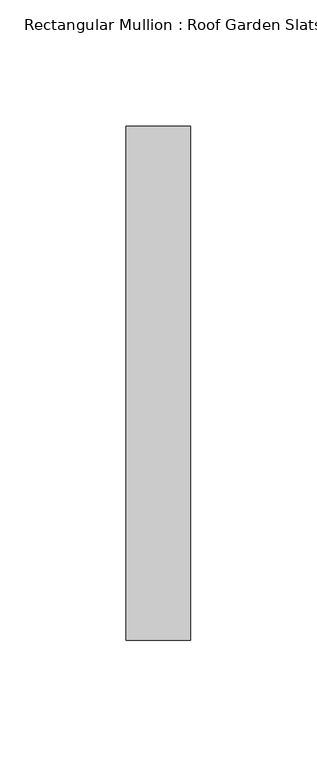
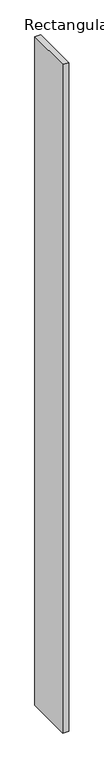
"""IFC4 building model written with IfcOpenShell, lengths in millimetres: member geometry, Rectangular Mullion : Roof Garden Slats."""

from ifc_helpers import new_model, si_unit, frame, origin, place, context, project, spatial, polyline, outline, extrude, source, transform, mapped, element, save


def rectangular_mullion_roof_garden_slats_68b258f1(model_context):
    return source(origin(), model_context, "Body", "SweptSolid", [
        extrude(outline(polyline([(0.0, 139.7), (0.0, -63.5), (-25.4, -63.5), (-25.4, 139.7), (0.0, 139.7)])), frame((0.0, 0.0, -2985.6778421), z_axis=(0.0, 0.0, 1.0), x_axis=(1.0, 0.0, 0.0)), (0.0, 0.0, 1.0), 2985.6778421),
    ])


if __name__ == "__main__":
    model = new_model("IFC4")
    model_context = context("Model", 3, world=origin())
    ifc_project = project(units=[si_unit("LENGTHUNIT", "METRE", prefix="MILLI")], contexts=[model_context])
    site = spatial("IfcSite", under=ifc_project)
    building = spatial("IfcBuilding", under=site)
    placement = place(None, origin())
    rectangular_mullion_roof_garden_slats_shape = rectangular_mullion_roof_garden_slats_68b258f1(model_context)
    element("IfcMember", 1, ObjectType="Rectangular Mullion : Roof Garden Slats", at=placement, inside=building, context=model_context, shape_type="MappedRepresentation", body=[
        mapped(rectangular_mullion_roof_garden_slats_shape, transform((0.0, 0.0, 0.0), x_axis=(1.0, 0.0, 0.0), y_axis=(0.0, 1.0, 0.0), z_axis=(0.0, 0.0, 1.0))),
    ])
    save(model, "model.ifc")
